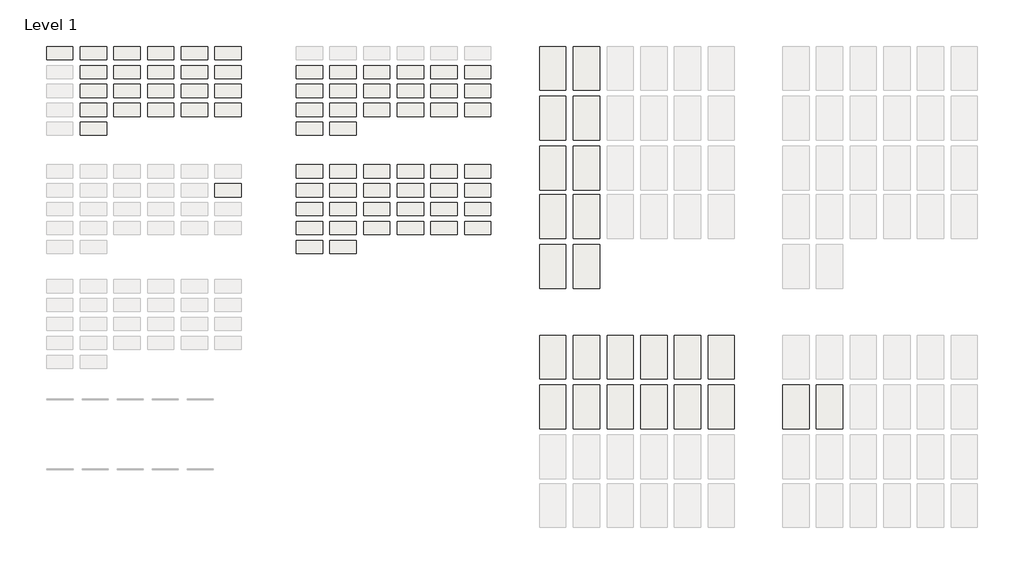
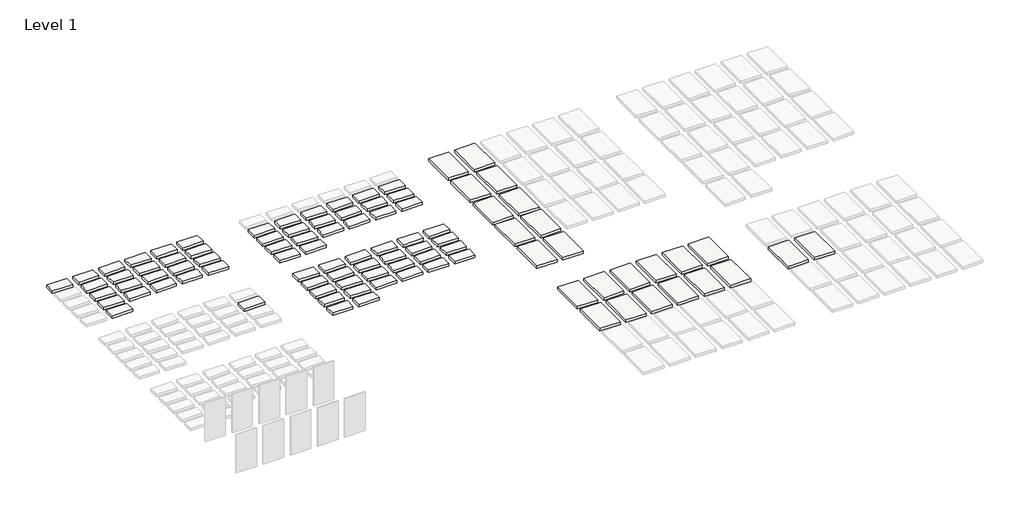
# One storey, part 2 of 3: 93 slabs.
"""IFC4 building model written with IfcOpenShell, lengths in millimetres."""

from ifc_helpers import new_model, si_unit, frame, origin, place, context, project, spatial, polyline, outline, extrude, element, save

model = new_model("IFC4")

# Units and contexts
model_context = context("Model", 3, world=origin())
ifc_project = project(units=[si_unit("LENGTHUNIT", "METRE", prefix="MILLI")], contexts=[model_context])

# Site, building, storey
site = spatial("IfcSite", under=ifc_project)
building = spatial("IfcBuilding", under=site)
storey = spatial("IfcBuildingStorey", under=building, Name="Level 1", Elevation=0.0)

# Slabs
placement = place(None, origin())
element("IfcSlab", 1, ObjectType="AEP Span Material Sample", at=placement, inside=storey, context=model_context, shape_type="SweptSolid", body=[
    extrude(outline(polyline([(-4333.8786121, 8076.7095388), (-4943.4786121, 8076.7095388), (-4943.4786121, 8381.5095388), (-4333.8786121, 8381.5095388), (-4333.8786121, 8076.7095388)])), frame((0.0, 0.0, -79.375), z_axis=(0.0, 0.0, 1.0), x_axis=(1.0, 0.0, 0.0)), (0.0, 0.0, 1.0), 79.375),
])
element("IfcSlab", 2, ObjectType="AEP Span Material Sample", at=placement, inside=storey, context=model_context, shape_type="SweptSolid", body=[
    extrude(outline(polyline([(-3552.8286121, 8076.7095388), (-4162.4286121, 8076.7095388), (-4162.4286121, 8381.5095388), (-3552.8286121, 8381.5095388), (-3552.8286121, 8076.7095388)])), frame((0.0, 0.0, -79.375), z_axis=(0.0, 0.0, 1.0), x_axis=(1.0, 0.0, 0.0)), (0.0, 0.0, 1.0), 79.375),
])
element("IfcSlab", 3, ObjectType="AEP Span Material Sample", at=placement, inside=storey, context=model_context, shape_type="SweptSolid", body=[
    extrude(outline(polyline([(-2771.7786121, 8076.7095388), (-3381.3786121, 8076.7095388), (-3381.3786121, 8381.5095388), (-2771.7786121, 8381.5095388), (-2771.7786121, 8076.7095388)])), frame((0.0, 0.0, -79.375), z_axis=(0.0, 0.0, 1.0), x_axis=(1.0, 0.0, 0.0)), (0.0, 0.0, 1.0), 79.375),
])
element("IfcSlab", 4, ObjectType="AEP Span Material Sample", at=placement, inside=storey, context=model_context, shape_type="SweptSolid", body=[
    extrude(outline(polyline([(-1990.7286121, 8076.7095388), (-2600.3286121, 8076.7095388), (-2600.3286121, 8381.5095388), (-1990.7286121, 8381.5095388), (-1990.7286121, 8076.7095388)])), frame((0.0, 0.0, -79.375), z_axis=(0.0, 0.0, 1.0), x_axis=(1.0, 0.0, 0.0)), (0.0, 0.0, 1.0), 79.375),
])
element("IfcSlab", 5, ObjectType="AEP Span Material Sample", at=placement, inside=storey, context=model_context, shape_type="SweptSolid", body=[
    extrude(outline(polyline([(-1209.6786121, 8076.7095388), (-1819.2786121, 8076.7095388), (-1819.2786121, 8381.5095388), (-1209.6786121, 8381.5095388), (-1209.6786121, 8076.7095388)])), frame((0.0, 0.0, -79.375), z_axis=(0.0, 0.0, 1.0), x_axis=(1.0, 0.0, 0.0)), (0.0, 0.0, 1.0), 79.375),
])
element("IfcSlab", 6, ObjectType="AEP Span Material Sample", at=placement, inside=storey, context=model_context, shape_type="SweptSolid", body=[
    extrude(outline(polyline([(-428.6286121, 8076.7095388), (-1038.2286121, 8076.7095388), (-1038.2286121, 8381.5095388), (-428.6286121, 8381.5095388), (-428.6286121, 8076.7095388)])), frame((0.0, 0.0, -79.375), z_axis=(0.0, 0.0, 1.0), x_axis=(1.0, 0.0, 0.0)), (0.0, 0.0, 1.0), 79.375),
])
element("IfcSlab", 7, ObjectType="AEP Span Material Sample", at=placement, inside=storey, context=model_context, shape_type="SweptSolid", body=[
    extrude(outline(polyline([(-3552.8286121, 7638.5595388), (-4162.4286121, 7638.5595388), (-4162.4286121, 7943.3595388), (-3552.8286121, 7943.3595388), (-3552.8286121, 7638.5595388)])), frame((0.0, 0.0, -79.375), z_axis=(0.0, 0.0, 1.0), x_axis=(1.0, 0.0, 0.0)), (0.0, 0.0, 1.0), 79.375),
])
element("IfcSlab", 8, ObjectType="AEP Span Material Sample", at=placement, inside=storey, context=model_context, shape_type="SweptSolid", body=[
    extrude(outline(polyline([(-2771.7786121, 7638.5595388), (-3381.3786121, 7638.5595388), (-3381.3786121, 7943.3595388), (-2771.7786121, 7943.3595388), (-2771.7786121, 7638.5595388)])), frame((0.0, 0.0, -79.375), z_axis=(0.0, 0.0, 1.0), x_axis=(1.0, 0.0, 0.0)), (0.0, 0.0, 1.0), 79.375),
])
element("IfcSlab", 9, ObjectType="AEP Span Material Sample", at=placement, inside=storey, context=model_context, shape_type="SweptSolid", body=[
    extrude(outline(polyline([(-1990.7286121, 7638.5595388), (-2600.3286121, 7638.5595388), (-2600.3286121, 7943.3595388), (-1990.7286121, 7943.3595388), (-1990.7286121, 7638.5595388)])), frame((0.0, 0.0, -79.375), z_axis=(0.0, 0.0, 1.0), x_axis=(1.0, 0.0, 0.0)), (0.0, 0.0, 1.0), 79.375),
])
element("IfcSlab", 10, ObjectType="AEP Span Material Sample", at=placement, inside=storey, context=model_context, shape_type="SweptSolid", body=[
    extrude(outline(polyline([(-1209.6786121, 7638.5595388), (-1819.2786121, 7638.5595388), (-1819.2786121, 7943.3595388), (-1209.6786121, 7943.3595388), (-1209.6786121, 7638.5595388)])), frame((0.0, 0.0, -79.375), z_axis=(0.0, 0.0, 1.0), x_axis=(1.0, 0.0, 0.0)), (0.0, 0.0, 1.0), 79.375),
])
element("IfcSlab", 11, ObjectType="AEP Span Material Sample", at=placement, inside=storey, context=model_context, shape_type="SweptSolid", body=[
    extrude(outline(polyline([(-428.6286121, 7638.5595388), (-1038.2286121, 7638.5595388), (-1038.2286121, 7943.3595388), (-428.6286121, 7943.3595388), (-428.6286121, 7638.5595388)])), frame((0.0, 0.0, -79.375), z_axis=(0.0, 0.0, 1.0), x_axis=(1.0, 0.0, 0.0)), (0.0, 0.0, 1.0), 79.375),
])
element("IfcSlab", 12, ObjectType="AEP Span Material Sample", at=placement, inside=storey, context=model_context, shape_type="SweptSolid", body=[
    extrude(outline(polyline([(-3552.8286121, 7200.4095388), (-4162.4286121, 7200.4095388), (-4162.4286121, 7505.2095388), (-3552.8286121, 7505.2095388), (-3552.8286121, 7200.4095388)])), frame((0.0, 0.0, -79.375), z_axis=(0.0, 0.0, 1.0), x_axis=(1.0, 0.0, 0.0)), (0.0, 0.0, 1.0), 79.375),
])
element("IfcSlab", 13, ObjectType="AEP Span Material Sample", at=placement, inside=storey, context=model_context, shape_type="SweptSolid", body=[
    extrude(outline(polyline([(-2771.7786121, 7200.4095388), (-3381.3786121, 7200.4095388), (-3381.3786121, 7505.2095388), (-2771.7786121, 7505.2095388), (-2771.7786121, 7200.4095388)])), frame((0.0, 0.0, -79.375), z_axis=(0.0, 0.0, 1.0), x_axis=(1.0, 0.0, 0.0)), (0.0, 0.0, 1.0), 79.375),
])
element("IfcSlab", 14, ObjectType="AEP Span Material Sample", at=placement, inside=storey, context=model_context, shape_type="SweptSolid", body=[
    extrude(outline(polyline([(-1990.7286121, 7200.4095388), (-2600.3286121, 7200.4095388), (-2600.3286121, 7505.2095388), (-1990.7286121, 7505.2095388), (-1990.7286121, 7200.4095388)])), frame((0.0, 0.0, -79.375), z_axis=(0.0, 0.0, 1.0), x_axis=(1.0, 0.0, 0.0)), (0.0, 0.0, 1.0), 79.375),
])
element("IfcSlab", 15, ObjectType="AEP Span Material Sample", at=placement, inside=storey, context=model_context, shape_type="SweptSolid", body=[
    extrude(outline(polyline([(-1209.6786121, 7200.4095388), (-1819.2786121, 7200.4095388), (-1819.2786121, 7505.2095388), (-1209.6786121, 7505.2095388), (-1209.6786121, 7200.4095388)])), frame((0.0, 0.0, -79.375), z_axis=(0.0, 0.0, 1.0), x_axis=(1.0, 0.0, 0.0)), (0.0, 0.0, 1.0), 79.375),
])
element("IfcSlab", 16, ObjectType="AEP Span Material Sample", at=placement, inside=storey, context=model_context, shape_type="SweptSolid", body=[
    extrude(outline(polyline([(-428.6286121, 7200.4095388), (-1038.2286121, 7200.4095388), (-1038.2286121, 7505.2095388), (-428.6286121, 7505.2095388), (-428.6286121, 7200.4095388)])), frame((0.0, 0.0, -79.375), z_axis=(0.0, 0.0, 1.0), x_axis=(1.0, 0.0, 0.0)), (0.0, 0.0, 1.0), 79.375),
])
element("IfcSlab", 17, ObjectType="AEP Span Material Sample", at=placement, inside=storey, context=model_context, shape_type="SweptSolid", body=[
    extrude(outline(polyline([(-3552.8286121, 6762.2595388), (-4162.4286121, 6762.2595388), (-4162.4286121, 7067.0595388), (-3552.8286121, 7067.0595388), (-3552.8286121, 6762.2595388)])), frame((0.0, 0.0, -79.375), z_axis=(0.0, 0.0, 1.0), x_axis=(1.0, 0.0, 0.0)), (0.0, 0.0, 1.0), 79.375),
])
element("IfcSlab", 18, ObjectType="AEP Span Material Sample", at=placement, inside=storey, context=model_context, shape_type="SweptSolid", body=[
    extrude(outline(polyline([(-2771.7786121, 6762.2595388), (-3381.3786121, 6762.2595388), (-3381.3786121, 7067.0595388), (-2771.7786121, 7067.0595388), (-2771.7786121, 6762.2595388)])), frame((0.0, 0.0, -79.375), z_axis=(0.0, 0.0, 1.0), x_axis=(1.0, 0.0, 0.0)), (0.0, 0.0, 1.0), 79.375),
])
element("IfcSlab", 19, ObjectType="AEP Span Material Sample", at=placement, inside=storey, context=model_context, shape_type="SweptSolid", body=[
    extrude(outline(polyline([(-1990.7286121, 6762.2595388), (-2600.3286121, 6762.2595388), (-2600.3286121, 7067.0595388), (-1990.7286121, 7067.0595388), (-1990.7286121, 6762.2595388)])), frame((0.0, 0.0, -79.375), z_axis=(0.0, 0.0, 1.0), x_axis=(1.0, 0.0, 0.0)), (0.0, 0.0, 1.0), 79.375),
])
element("IfcSlab", 20, ObjectType="AEP Span Material Sample", at=placement, inside=storey, context=model_context, shape_type="SweptSolid", body=[
    extrude(outline(polyline([(-1209.6786121, 6762.2595388), (-1819.2786121, 6762.2595388), (-1819.2786121, 7067.0595388), (-1209.6786121, 7067.0595388), (-1209.6786121, 6762.2595388)])), frame((0.0, 0.0, -79.375), z_axis=(0.0, 0.0, 1.0), x_axis=(1.0, 0.0, 0.0)), (0.0, 0.0, 1.0), 79.375),
])
element("IfcSlab", 21, ObjectType="AEP Span Material Sample", at=placement, inside=storey, context=model_context, shape_type="SweptSolid", body=[
    extrude(outline(polyline([(-428.6286121, 6762.2595388), (-1038.2286121, 6762.2595388), (-1038.2286121, 7067.0595388), (-428.6286121, 7067.0595388), (-428.6286121, 6762.2595388)])), frame((0.0, 0.0, -79.375), z_axis=(0.0, 0.0, 1.0), x_axis=(1.0, 0.0, 0.0)), (0.0, 0.0, 1.0), 79.375),
])
element("IfcSlab", 22, ObjectType="AEP Span Material Sample", at=placement, inside=storey, context=model_context, shape_type="SweptSolid", body=[
    extrude(outline(polyline([(-3552.8286121, 6324.1095388), (-4162.4286121, 6324.1095388), (-4162.4286121, 6628.9095388), (-3552.8286121, 6628.9095388), (-3552.8286121, 6324.1095388)])), frame((0.0, 0.0, -79.375), z_axis=(0.0, 0.0, 1.0), x_axis=(1.0, 0.0, 0.0)), (0.0, 0.0, 1.0), 79.375),
])
element("IfcSlab", 23, ObjectType="AEP Span Material Sample", at=placement, inside=storey, context=model_context, shape_type="SweptSolid", body=[
    extrude(outline(polyline([(7104.6651306, 7369.4013771), (6495.0651306, 7369.4013771), (6495.0651306, 8385.4013771), (7104.6651306, 8385.4013771), (7104.6651306, 7369.4013771)])), frame((0.0, 0.0, -79.375), z_axis=(0.0, 0.0, 1.0), x_axis=(1.0, 0.0, 0.0)), (0.0, 0.0, 1.0), 79.375),
])
element("IfcSlab", 24, ObjectType="AEP Span Material Sample", at=placement, inside=storey, context=model_context, shape_type="SweptSolid", body=[
    extrude(outline(polyline([(7885.7151306, 7369.4013771), (7276.1151306, 7369.4013771), (7276.1151306, 8385.4013771), (7885.7151306, 8385.4013771), (7885.7151306, 7369.4013771)])), frame((0.0, 0.0, -79.375), z_axis=(0.0, 0.0, 1.0), x_axis=(1.0, 0.0, 0.0)), (0.0, 0.0, 1.0), 79.375),
])
element("IfcSlab", 25, ObjectType="AEP Span Material Sample", at=placement, inside=storey, context=model_context, shape_type="SweptSolid", body=[
    extrude(outline(polyline([(7104.6651306, 6213.7013771), (6495.0651306, 6213.7013771), (6495.0651306, 7229.7013771), (7104.6651306, 7229.7013771), (7104.6651306, 6213.7013771)])), frame((0.0, 0.0, -79.375), z_axis=(0.0, 0.0, 1.0), x_axis=(1.0, 0.0, 0.0)), (0.0, 0.0, 1.0), 79.375),
])
element("IfcSlab", 26, ObjectType="AEP Span Material Sample", at=placement, inside=storey, context=model_context, shape_type="SweptSolid", body=[
    extrude(outline(polyline([(7885.7151306, 6213.7013771), (7276.1151306, 6213.7013771), (7276.1151306, 7229.7013771), (7885.7151306, 7229.7013771), (7885.7151306, 6213.7013771)])), frame((0.0, 0.0, -79.375), z_axis=(0.0, 0.0, 1.0), x_axis=(1.0, 0.0, 0.0)), (0.0, 0.0, 1.0), 79.375),
])
element("IfcSlab", 27, ObjectType="AEP Span Material Sample", at=placement, inside=storey, context=model_context, shape_type="SweptSolid", body=[
    extrude(outline(polyline([(7104.6651306, 5058.0013771), (6495.0651306, 5058.0013771), (6495.0651306, 6074.0013771), (7104.6651306, 6074.0013771), (7104.6651306, 5058.0013771)])), frame((0.0, 0.0, -79.375), z_axis=(0.0, 0.0, 1.0), x_axis=(1.0, 0.0, 0.0)), (0.0, 0.0, 1.0), 79.375),
])
element("IfcSlab", 28, ObjectType="AEP Span Material Sample", at=placement, inside=storey, context=model_context, shape_type="SweptSolid", body=[
    extrude(outline(polyline([(7885.7151306, 5058.0013771), (7276.1151306, 5058.0013771), (7276.1151306, 6074.0013771), (7885.7151306, 6074.0013771), (7885.7151306, 5058.0013771)])), frame((0.0, 0.0, -79.375), z_axis=(0.0, 0.0, 1.0), x_axis=(1.0, 0.0, 0.0)), (0.0, 0.0, 1.0), 79.375),
])
element("IfcSlab", 29, ObjectType="AEP Span Material Sample", at=placement, inside=storey, context=model_context, shape_type="SweptSolid", body=[
    extrude(outline(polyline([(7104.6651306, 3927.7013771), (6495.0651306, 3927.7013771), (6495.0651306, 4943.7013771), (7104.6651306, 4943.7013771), (7104.6651306, 3927.7013771)])), frame((0.0, 0.0, -79.375), z_axis=(0.0, 0.0, 1.0), x_axis=(1.0, 0.0, 0.0)), (0.0, 0.0, 1.0), 79.375),
])
element("IfcSlab", 30, ObjectType="AEP Span Material Sample", at=placement, inside=storey, context=model_context, shape_type="SweptSolid", body=[
    extrude(outline(polyline([(7885.7151306, 3927.7013771), (7276.1151306, 3927.7013771), (7276.1151306, 4943.7013771), (7885.7151306, 4943.7013771), (7885.7151306, 3927.7013771)])), frame((0.0, 0.0, -79.375), z_axis=(0.0, 0.0, 1.0), x_axis=(1.0, 0.0, 0.0)), (0.0, 0.0, 1.0), 79.375),
])
element("IfcSlab", 31, ObjectType="AEP Span Material Sample", at=placement, inside=storey, context=model_context, shape_type="SweptSolid", body=[
    extrude(outline(polyline([(7104.6651306, 2772.0013771), (6495.0651306, 2772.0013771), (6495.0651306, 3788.0013771), (7104.6651306, 3788.0013771), (7104.6651306, 2772.0013771)])), frame((0.0, 0.0, -79.375), z_axis=(0.0, 0.0, 1.0), x_axis=(1.0, 0.0, 0.0)), (0.0, 0.0, 1.0), 79.375),
])
element("IfcSlab", 32, ObjectType="AEP Span Material Sample", at=placement, inside=storey, context=model_context, shape_type="SweptSolid", body=[
    extrude(outline(polyline([(7885.7151306, 2772.0013771), (7276.1151306, 2772.0013771), (7276.1151306, 3788.0013771), (7885.7151306, 3788.0013771), (7885.7151306, 2772.0013771)])), frame((0.0, 0.0, -79.375), z_axis=(0.0, 0.0, 1.0), x_axis=(1.0, 0.0, 0.0)), (0.0, 0.0, 1.0), 79.375),
])
element("IfcSlab", 33, ObjectType="AEP Span Material Sample", at=placement, inside=storey, context=model_context, shape_type="SweptSolid", body=[
    extrude(outline(polyline([(1457.3213879, 7638.5595388), (847.7213879, 7638.5595388), (847.7213879, 7943.3595388), (1457.3213879, 7943.3595388), (1457.3213879, 7638.5595388)])), frame((0.0, 0.0, -79.375), z_axis=(0.0, 0.0, 1.0), x_axis=(1.0, 0.0, 0.0)), (0.0, 0.0, 1.0), 79.375),
])
element("IfcSlab", 34, ObjectType="AEP Span Material Sample", at=placement, inside=storey, context=model_context, shape_type="SweptSolid", body=[
    extrude(outline(polyline([(2238.3713879, 7638.5595388), (1628.7713879, 7638.5595388), (1628.7713879, 7943.3595388), (2238.3713879, 7943.3595388), (2238.3713879, 7638.5595388)])), frame((0.0, 0.0, -79.375), z_axis=(0.0, 0.0, 1.0), x_axis=(1.0, 0.0, 0.0)), (0.0, 0.0, 1.0), 79.375),
])
element("IfcSlab", 35, ObjectType="AEP Span Material Sample", at=placement, inside=storey, context=model_context, shape_type="SweptSolid", body=[
    extrude(outline(polyline([(3019.4213879, 7638.5595388), (2409.8213879, 7638.5595388), (2409.8213879, 7943.3595388), (3019.4213879, 7943.3595388), (3019.4213879, 7638.5595388)])), frame((0.0, 0.0, -79.375), z_axis=(0.0, 0.0, 1.0), x_axis=(1.0, 0.0, 0.0)), (0.0, 0.0, 1.0), 79.375),
])
element("IfcSlab", 36, ObjectType="AEP Span Material Sample", at=placement, inside=storey, context=model_context, shape_type="SweptSolid", body=[
    extrude(outline(polyline([(3800.4713879, 7638.5595388), (3190.8713879, 7638.5595388), (3190.8713879, 7943.3595388), (3800.4713879, 7943.3595388), (3800.4713879, 7638.5595388)])), frame((0.0, 0.0, -79.375), z_axis=(0.0, 0.0, 1.0), x_axis=(1.0, 0.0, 0.0)), (0.0, 0.0, 1.0), 79.375),
])
element("IfcSlab", 37, ObjectType="AEP Span Material Sample", at=placement, inside=storey, context=model_context, shape_type="SweptSolid", body=[
    extrude(outline(polyline([(4581.5213879, 7638.5595388), (3971.9213879, 7638.5595388), (3971.9213879, 7943.3595388), (4581.5213879, 7943.3595388), (4581.5213879, 7638.5595388)])), frame((0.0, 0.0, -79.375), z_axis=(0.0, 0.0, 1.0), x_axis=(1.0, 0.0, 0.0)), (0.0, 0.0, 1.0), 79.375),
])
element("IfcSlab", 38, ObjectType="AEP Span Material Sample", at=placement, inside=storey, context=model_context, shape_type="SweptSolid", body=[
    extrude(outline(polyline([(5362.5713879, 7638.5595388), (4752.9713879, 7638.5595388), (4752.9713879, 7943.3595388), (5362.5713879, 7943.3595388), (5362.5713879, 7638.5595388)])), frame((0.0, 0.0, -79.375), z_axis=(0.0, 0.0, 1.0), x_axis=(1.0, 0.0, 0.0)), (0.0, 0.0, 1.0), 79.375),
])
element("IfcSlab", 39, ObjectType="AEP Span Material Sample", at=placement, inside=storey, context=model_context, shape_type="SweptSolid", body=[
    extrude(outline(polyline([(1457.3213879, 7200.4095388), (847.7213879, 7200.4095388), (847.7213879, 7505.2095388), (1457.3213879, 7505.2095388), (1457.3213879, 7200.4095388)])), frame((0.0, 0.0, -79.375), z_axis=(0.0, 0.0, 1.0), x_axis=(1.0, 0.0, 0.0)), (0.0, 0.0, 1.0), 79.375),
])
element("IfcSlab", 40, ObjectType="AEP Span Material Sample", at=placement, inside=storey, context=model_context, shape_type="SweptSolid", body=[
    extrude(outline(polyline([(2238.3713879, 7200.4095388), (1628.7713879, 7200.4095388), (1628.7713879, 7505.2095388), (2238.3713879, 7505.2095388), (2238.3713879, 7200.4095388)])), frame((0.0, 0.0, -79.375), z_axis=(0.0, 0.0, 1.0), x_axis=(1.0, 0.0, 0.0)), (0.0, 0.0, 1.0), 79.375),
])
element("IfcSlab", 41, ObjectType="AEP Span Material Sample", at=placement, inside=storey, context=model_context, shape_type="SweptSolid", body=[
    extrude(outline(polyline([(3019.4213879, 7200.4095388), (2409.8213879, 7200.4095388), (2409.8213879, 7505.2095388), (3019.4213879, 7505.2095388), (3019.4213879, 7200.4095388)])), frame((0.0, 0.0, -79.375), z_axis=(0.0, 0.0, 1.0), x_axis=(1.0, 0.0, 0.0)), (0.0, 0.0, 1.0), 79.375),
])
element("IfcSlab", 42, ObjectType="AEP Span Material Sample", at=placement, inside=storey, context=model_context, shape_type="SweptSolid", body=[
    extrude(outline(polyline([(3800.4713879, 7200.4095388), (3190.8713879, 7200.4095388), (3190.8713879, 7505.2095388), (3800.4713879, 7505.2095388), (3800.4713879, 7200.4095388)])), frame((0.0, 0.0, -79.375), z_axis=(0.0, 0.0, 1.0), x_axis=(1.0, 0.0, 0.0)), (0.0, 0.0, 1.0), 79.375),
])
element("IfcSlab", 43, ObjectType="AEP Span Material Sample", at=placement, inside=storey, context=model_context, shape_type="SweptSolid", body=[
    extrude(outline(polyline([(4581.5213879, 7200.4095388), (3971.9213879, 7200.4095388), (3971.9213879, 7505.2095388), (4581.5213879, 7505.2095388), (4581.5213879, 7200.4095388)])), frame((0.0, 0.0, -79.375), z_axis=(0.0, 0.0, 1.0), x_axis=(1.0, 0.0, 0.0)), (0.0, 0.0, 1.0), 79.375),
])
element("IfcSlab", 44, ObjectType="AEP Span Material Sample", at=placement, inside=storey, context=model_context, shape_type="SweptSolid", body=[
    extrude(outline(polyline([(5362.5713879, 7200.4095388), (4752.9713879, 7200.4095388), (4752.9713879, 7505.2095388), (5362.5713879, 7505.2095388), (5362.5713879, 7200.4095388)])), frame((0.0, 0.0, -79.375), z_axis=(0.0, 0.0, 1.0), x_axis=(1.0, 0.0, 0.0)), (0.0, 0.0, 1.0), 79.375),
])
element("IfcSlab", 45, ObjectType="AEP Span Material Sample", at=placement, inside=storey, context=model_context, shape_type="SweptSolid", body=[
    extrude(outline(polyline([(1457.3213879, 6762.2595388), (847.7213879, 6762.2595388), (847.7213879, 7067.0595388), (1457.3213879, 7067.0595388), (1457.3213879, 6762.2595388)])), frame((0.0, 0.0, -79.375), z_axis=(0.0, 0.0, 1.0), x_axis=(1.0, 0.0, 0.0)), (0.0, 0.0, 1.0), 79.375),
])
element("IfcSlab", 46, ObjectType="AEP Span Material Sample", at=placement, inside=storey, context=model_context, shape_type="SweptSolid", body=[
    extrude(outline(polyline([(2238.3713879, 6762.2595388), (1628.7713879, 6762.2595388), (1628.7713879, 7067.0595388), (2238.3713879, 7067.0595388), (2238.3713879, 6762.2595388)])), frame((0.0, 0.0, -79.375), z_axis=(0.0, 0.0, 1.0), x_axis=(1.0, 0.0, 0.0)), (0.0, 0.0, 1.0), 79.375),
])
element("IfcSlab", 47, ObjectType="AEP Span Material Sample", at=placement, inside=storey, context=model_context, shape_type="SweptSolid", body=[
    extrude(outline(polyline([(3019.4213879, 6762.2595388), (2409.8213879, 6762.2595388), (2409.8213879, 7067.0595388), (3019.4213879, 7067.0595388), (3019.4213879, 6762.2595388)])), frame((0.0, 0.0, -79.375), z_axis=(0.0, 0.0, 1.0), x_axis=(1.0, 0.0, 0.0)), (0.0, 0.0, 1.0), 79.375),
])
element("IfcSlab", 48, ObjectType="AEP Span Material Sample", at=placement, inside=storey, context=model_context, shape_type="SweptSolid", body=[
    extrude(outline(polyline([(3800.4713879, 6762.2595388), (3190.8713879, 6762.2595388), (3190.8713879, 7067.0595388), (3800.4713879, 7067.0595388), (3800.4713879, 6762.2595388)])), frame((0.0, 0.0, -79.375), z_axis=(0.0, 0.0, 1.0), x_axis=(1.0, 0.0, 0.0)), (0.0, 0.0, 1.0), 79.375),
])
element("IfcSlab", 49, ObjectType="AEP Span Material Sample", at=placement, inside=storey, context=model_context, shape_type="SweptSolid", body=[
    extrude(outline(polyline([(4581.5213879, 6762.2595388), (3971.9213879, 6762.2595388), (3971.9213879, 7067.0595388), (4581.5213879, 7067.0595388), (4581.5213879, 6762.2595388)])), frame((0.0, 0.0, -79.375), z_axis=(0.0, 0.0, 1.0), x_axis=(1.0, 0.0, 0.0)), (0.0, 0.0, 1.0), 79.375),
])
element("IfcSlab", 50, ObjectType="AEP Span Material Sample", at=placement, inside=storey, context=model_context, shape_type="SweptSolid", body=[
    extrude(outline(polyline([(5362.5713879, 6762.2595388), (4752.9713879, 6762.2595388), (4752.9713879, 7067.0595388), (5362.5713879, 7067.0595388), (5362.5713879, 6762.2595388)])), frame((0.0, 0.0, -79.375), z_axis=(0.0, 0.0, 1.0), x_axis=(1.0, 0.0, 0.0)), (0.0, 0.0, 1.0), 79.375),
])
element("IfcSlab", 51, ObjectType="AEP Span Material Sample", at=placement, inside=storey, context=model_context, shape_type="SweptSolid", body=[
    extrude(outline(polyline([(1457.3213879, 6324.1095388), (847.7213879, 6324.1095388), (847.7213879, 6628.9095388), (1457.3213879, 6628.9095388), (1457.3213879, 6324.1095388)])), frame((0.0, 0.0, -79.375), z_axis=(0.0, 0.0, 1.0), x_axis=(1.0, 0.0, 0.0)), (0.0, 0.0, 1.0), 79.375),
])
element("IfcSlab", 52, ObjectType="AEP Span Material Sample", at=placement, inside=storey, context=model_context, shape_type="SweptSolid", body=[
    extrude(outline(polyline([(2238.3713879, 6324.1095388), (1628.7713879, 6324.1095388), (1628.7713879, 6628.9095388), (2238.3713879, 6628.9095388), (2238.3713879, 6324.1095388)])), frame((0.0, 0.0, -79.375), z_axis=(0.0, 0.0, 1.0), x_axis=(1.0, 0.0, 0.0)), (0.0, 0.0, 1.0), 79.375),
])
element("IfcSlab", 53, ObjectType="AEP Span Material Sample", at=placement, inside=storey, context=model_context, shape_type="SweptSolid", body=[
    extrude(outline(polyline([(-428.6286121, 4895.3595388), (-1038.2286121, 4895.3595388), (-1038.2286121, 5200.1595388), (-428.6286121, 5200.1595388), (-428.6286121, 4895.3595388)])), frame((0.0, 0.0, -79.375), z_axis=(0.0, 0.0, 1.0), x_axis=(1.0, 0.0, 0.0)), (0.0, 0.0, 1.0), 79.375),
])
element("IfcSlab", 54, ObjectType="AEP Span Material Sample", at=placement, inside=storey, context=model_context, shape_type="SweptSolid", body=[
    extrude(outline(polyline([(1457.3213879, 5333.5095388), (847.7213879, 5333.5095388), (847.7213879, 5638.3095388), (1457.3213879, 5638.3095388), (1457.3213879, 5333.5095388)])), frame((0.0, 0.0, -79.375), z_axis=(0.0, 0.0, 1.0), x_axis=(1.0, 0.0, 0.0)), (0.0, 0.0, 1.0), 79.375),
])
element("IfcSlab", 55, ObjectType="AEP Span Material Sample", at=placement, inside=storey, context=model_context, shape_type="SweptSolid", body=[
    extrude(outline(polyline([(2238.3713879, 5333.5095388), (1628.7713879, 5333.5095388), (1628.7713879, 5638.3095388), (2238.3713879, 5638.3095388), (2238.3713879, 5333.5095388)])), frame((0.0, 0.0, -79.375), z_axis=(0.0, 0.0, 1.0), x_axis=(1.0, 0.0, 0.0)), (0.0, 0.0, 1.0), 79.375),
])
element("IfcSlab", 56, ObjectType="AEP Span Material Sample", at=placement, inside=storey, context=model_context, shape_type="SweptSolid", body=[
    extrude(outline(polyline([(3019.4213879, 5333.5095388), (2409.8213879, 5333.5095388), (2409.8213879, 5638.3095388), (3019.4213879, 5638.3095388), (3019.4213879, 5333.5095388)])), frame((0.0, 0.0, -79.375), z_axis=(0.0, 0.0, 1.0), x_axis=(1.0, 0.0, 0.0)), (0.0, 0.0, 1.0), 79.375),
])
element("IfcSlab", 57, ObjectType="AEP Span Material Sample", at=placement, inside=storey, context=model_context, shape_type="SweptSolid", body=[
    extrude(outline(polyline([(3800.4713879, 5333.5095388), (3190.8713879, 5333.5095388), (3190.8713879, 5638.3095388), (3800.4713879, 5638.3095388), (3800.4713879, 5333.5095388)])), frame((0.0, 0.0, -79.375), z_axis=(0.0, 0.0, 1.0), x_axis=(1.0, 0.0, 0.0)), (0.0, 0.0, 1.0), 79.375),
])
element("IfcSlab", 58, ObjectType="AEP Span Material Sample", at=placement, inside=storey, context=model_context, shape_type="SweptSolid", body=[
    extrude(outline(polyline([(4581.5213879, 5333.5095388), (3971.9213879, 5333.5095388), (3971.9213879, 5638.3095388), (4581.5213879, 5638.3095388), (4581.5213879, 5333.5095388)])), frame((0.0, 0.0, -79.375), z_axis=(0.0, 0.0, 1.0), x_axis=(1.0, 0.0, 0.0)), (0.0, 0.0, 1.0), 79.375),
])
element("IfcSlab", 59, ObjectType="AEP Span Material Sample", at=placement, inside=storey, context=model_context, shape_type="SweptSolid", body=[
    extrude(outline(polyline([(5362.5713879, 5333.5095388), (4752.9713879, 5333.5095388), (4752.9713879, 5638.3095388), (5362.5713879, 5638.3095388), (5362.5713879, 5333.5095388)])), frame((0.0, 0.0, -79.375), z_axis=(0.0, 0.0, 1.0), x_axis=(1.0, 0.0, 0.0)), (0.0, 0.0, 1.0), 79.375),
])
element("IfcSlab", 60, ObjectType="AEP Span Material Sample", at=placement, inside=storey, context=model_context, shape_type="SweptSolid", body=[
    extrude(outline(polyline([(1457.3213879, 4895.3595388), (847.7213879, 4895.3595388), (847.7213879, 5200.1595388), (1457.3213879, 5200.1595388), (1457.3213879, 4895.3595388)])), frame((0.0, 0.0, -79.375), z_axis=(0.0, 0.0, 1.0), x_axis=(1.0, 0.0, 0.0)), (0.0, 0.0, 1.0), 79.375),
])
element("IfcSlab", 61, ObjectType="AEP Span Material Sample", at=placement, inside=storey, context=model_context, shape_type="SweptSolid", body=[
    extrude(outline(polyline([(2238.3713879, 4895.3595388), (1628.7713879, 4895.3595388), (1628.7713879, 5200.1595388), (2238.3713879, 5200.1595388), (2238.3713879, 4895.3595388)])), frame((0.0, 0.0, -79.375), z_axis=(0.0, 0.0, 1.0), x_axis=(1.0, 0.0, 0.0)), (0.0, 0.0, 1.0), 79.375),
])
element("IfcSlab", 62, ObjectType="AEP Span Material Sample", at=placement, inside=storey, context=model_context, shape_type="SweptSolid", body=[
    extrude(outline(polyline([(3019.4213879, 4895.3595388), (2409.8213879, 4895.3595388), (2409.8213879, 5200.1595388), (3019.4213879, 5200.1595388), (3019.4213879, 4895.3595388)])), frame((0.0, 0.0, -79.375), z_axis=(0.0, 0.0, 1.0), x_axis=(1.0, 0.0, 0.0)), (0.0, 0.0, 1.0), 79.375),
])
element("IfcSlab", 63, ObjectType="AEP Span Material Sample", at=placement, inside=storey, context=model_context, shape_type="SweptSolid", body=[
    extrude(outline(polyline([(3800.4713879, 4895.3595388), (3190.8713879, 4895.3595388), (3190.8713879, 5200.1595388), (3800.4713879, 5200.1595388), (3800.4713879, 4895.3595388)])), frame((0.0, 0.0, -79.375), z_axis=(0.0, 0.0, 1.0), x_axis=(1.0, 0.0, 0.0)), (0.0, 0.0, 1.0), 79.375),
])
element("IfcSlab", 64, ObjectType="AEP Span Material Sample", at=placement, inside=storey, context=model_context, shape_type="SweptSolid", body=[
    extrude(outline(polyline([(4581.5213879, 4895.3595388), (3971.9213879, 4895.3595388), (3971.9213879, 5200.1595388), (4581.5213879, 5200.1595388), (4581.5213879, 4895.3595388)])), frame((0.0, 0.0, -79.375), z_axis=(0.0, 0.0, 1.0), x_axis=(1.0, 0.0, 0.0)), (0.0, 0.0, 1.0), 79.375),
])
element("IfcSlab", 65, ObjectType="AEP Span Material Sample", at=placement, inside=storey, context=model_context, shape_type="SweptSolid", body=[
    extrude(outline(polyline([(5362.5713879, 4895.3595388), (4752.9713879, 4895.3595388), (4752.9713879, 5200.1595388), (5362.5713879, 5200.1595388), (5362.5713879, 4895.3595388)])), frame((0.0, 0.0, -79.375), z_axis=(0.0, 0.0, 1.0), x_axis=(1.0, 0.0, 0.0)), (0.0, 0.0, 1.0), 79.375),
])
element("IfcSlab", 66, ObjectType="AEP Span Material Sample", at=placement, inside=storey, context=model_context, shape_type="SweptSolid", body=[
    extrude(outline(polyline([(1457.3213879, 4457.2095388), (847.7213879, 4457.2095388), (847.7213879, 4762.0095388), (1457.3213879, 4762.0095388), (1457.3213879, 4457.2095388)])), frame((0.0, 0.0, -79.375), z_axis=(0.0, 0.0, 1.0), x_axis=(1.0, 0.0, 0.0)), (0.0, 0.0, 1.0), 79.375),
])
element("IfcSlab", 67, ObjectType="AEP Span Material Sample", at=placement, inside=storey, context=model_context, shape_type="SweptSolid", body=[
    extrude(outline(polyline([(2238.3713879, 4457.2095388), (1628.7713879, 4457.2095388), (1628.7713879, 4762.0095388), (2238.3713879, 4762.0095388), (2238.3713879, 4457.2095388)])), frame((0.0, 0.0, -79.375), z_axis=(0.0, 0.0, 1.0), x_axis=(1.0, 0.0, 0.0)), (0.0, 0.0, 1.0), 79.375),
])
element("IfcSlab", 68, ObjectType="AEP Span Material Sample", at=placement, inside=storey, context=model_context, shape_type="SweptSolid", body=[
    extrude(outline(polyline([(3019.4213879, 4457.2095388), (2409.8213879, 4457.2095388), (2409.8213879, 4762.0095388), (3019.4213879, 4762.0095388), (3019.4213879, 4457.2095388)])), frame((0.0, 0.0, -79.375), z_axis=(0.0, 0.0, 1.0), x_axis=(1.0, 0.0, 0.0)), (0.0, 0.0, 1.0), 79.375),
])
element("IfcSlab", 69, ObjectType="AEP Span Material Sample", at=placement, inside=storey, context=model_context, shape_type="SweptSolid", body=[
    extrude(outline(polyline([(3800.4713879, 4457.2095388), (3190.8713879, 4457.2095388), (3190.8713879, 4762.0095388), (3800.4713879, 4762.0095388), (3800.4713879, 4457.2095388)])), frame((0.0, 0.0, -79.375), z_axis=(0.0, 0.0, 1.0), x_axis=(1.0, 0.0, 0.0)), (0.0, 0.0, 1.0), 79.375),
])
element("IfcSlab", 70, ObjectType="AEP Span Material Sample", at=placement, inside=storey, context=model_context, shape_type="SweptSolid", body=[
    extrude(outline(polyline([(4581.5213879, 4457.2095388), (3971.9213879, 4457.2095388), (3971.9213879, 4762.0095388), (4581.5213879, 4762.0095388), (4581.5213879, 4457.2095388)])), frame((0.0, 0.0, -79.375), z_axis=(0.0, 0.0, 1.0), x_axis=(1.0, 0.0, 0.0)), (0.0, 0.0, 1.0), 79.375),
])
element("IfcSlab", 71, ObjectType="AEP Span Material Sample", at=placement, inside=storey, context=model_context, shape_type="SweptSolid", body=[
    extrude(outline(polyline([(5362.5713879, 4457.2095388), (4752.9713879, 4457.2095388), (4752.9713879, 4762.0095388), (5362.5713879, 4762.0095388), (5362.5713879, 4457.2095388)])), frame((0.0, 0.0, -79.375), z_axis=(0.0, 0.0, 1.0), x_axis=(1.0, 0.0, 0.0)), (0.0, 0.0, 1.0), 79.375),
])
element("IfcSlab", 72, ObjectType="AEP Span Material Sample", at=placement, inside=storey, context=model_context, shape_type="SweptSolid", body=[
    extrude(outline(polyline([(1457.3213879, 4019.0595388), (847.7213879, 4019.0595388), (847.7213879, 4323.8595388), (1457.3213879, 4323.8595388), (1457.3213879, 4019.0595388)])), frame((0.0, 0.0, -79.375), z_axis=(0.0, 0.0, 1.0), x_axis=(1.0, 0.0, 0.0)), (0.0, 0.0, 1.0), 79.375),
])
element("IfcSlab", 73, ObjectType="AEP Span Material Sample", at=placement, inside=storey, context=model_context, shape_type="SweptSolid", body=[
    extrude(outline(polyline([(2238.3713879, 4019.0595388), (1628.7713879, 4019.0595388), (1628.7713879, 4323.8595388), (2238.3713879, 4323.8595388), (2238.3713879, 4019.0595388)])), frame((0.0, 0.0, -79.375), z_axis=(0.0, 0.0, 1.0), x_axis=(1.0, 0.0, 0.0)), (0.0, 0.0, 1.0), 79.375),
])
element("IfcSlab", 74, ObjectType="AEP Span Material Sample", at=placement, inside=storey, context=model_context, shape_type="SweptSolid", body=[
    extrude(outline(polyline([(3019.4213879, 4019.0595388), (2409.8213879, 4019.0595388), (2409.8213879, 4323.8595388), (3019.4213879, 4323.8595388), (3019.4213879, 4019.0595388)])), frame((0.0, 0.0, -79.375), z_axis=(0.0, 0.0, 1.0), x_axis=(1.0, 0.0, 0.0)), (0.0, 0.0, 1.0), 79.375),
])
element("IfcSlab", 75, ObjectType="AEP Span Material Sample", at=placement, inside=storey, context=model_context, shape_type="SweptSolid", body=[
    extrude(outline(polyline([(3800.4713879, 4019.0595388), (3190.8713879, 4019.0595388), (3190.8713879, 4323.8595388), (3800.4713879, 4323.8595388), (3800.4713879, 4019.0595388)])), frame((0.0, 0.0, -79.375), z_axis=(0.0, 0.0, 1.0), x_axis=(1.0, 0.0, 0.0)), (0.0, 0.0, 1.0), 79.375),
])
element("IfcSlab", 76, ObjectType="AEP Span Material Sample", at=placement, inside=storey, context=model_context, shape_type="SweptSolid", body=[
    extrude(outline(polyline([(4581.5213879, 4019.0595388), (3971.9213879, 4019.0595388), (3971.9213879, 4323.8595388), (4581.5213879, 4323.8595388), (4581.5213879, 4019.0595388)])), frame((0.0, 0.0, -79.375), z_axis=(0.0, 0.0, 1.0), x_axis=(1.0, 0.0, 0.0)), (0.0, 0.0, 1.0), 79.375),
])
element("IfcSlab", 77, ObjectType="AEP Span Material Sample", at=placement, inside=storey, context=model_context, shape_type="SweptSolid", body=[
    extrude(outline(polyline([(5362.5713879, 4019.0595388), (4752.9713879, 4019.0595388), (4752.9713879, 4323.8595388), (5362.5713879, 4323.8595388), (5362.5713879, 4019.0595388)])), frame((0.0, 0.0, -79.375), z_axis=(0.0, 0.0, 1.0), x_axis=(1.0, 0.0, 0.0)), (0.0, 0.0, 1.0), 79.375),
])
element("IfcSlab", 78, ObjectType="AEP Span Material Sample", at=placement, inside=storey, context=model_context, shape_type="SweptSolid", body=[
    extrude(outline(polyline([(1457.3213879, 3580.9095388), (847.7213879, 3580.9095388), (847.7213879, 3885.7095388), (1457.3213879, 3885.7095388), (1457.3213879, 3580.9095388)])), frame((0.0, 0.0, -79.375), z_axis=(0.0, 0.0, 1.0), x_axis=(1.0, 0.0, 0.0)), (0.0, 0.0, 1.0), 79.375),
])
element("IfcSlab", 79, ObjectType="AEP Span Material Sample", at=placement, inside=storey, context=model_context, shape_type="SweptSolid", body=[
    extrude(outline(polyline([(2238.3713879, 3580.9095388), (1628.7713879, 3580.9095388), (1628.7713879, 3885.7095388), (2238.3713879, 3885.7095388), (2238.3713879, 3580.9095388)])), frame((0.0, 0.0, -79.375), z_axis=(0.0, 0.0, 1.0), x_axis=(1.0, 0.0, 0.0)), (0.0, 0.0, 1.0), 79.375),
])
element("IfcSlab", 80, ObjectType="AEP Span Material Sample", at=placement, inside=storey, context=model_context, shape_type="SweptSolid", body=[
    extrude(outline(polyline([(7104.6651306, 663.8013771), (6495.0651306, 663.8013771), (6495.0651306, 1679.8013771), (7104.6651306, 1679.8013771), (7104.6651306, 663.8013771)])), frame((0.0, 0.0, -79.375), z_axis=(0.0, 0.0, 1.0), x_axis=(1.0, 0.0, 0.0)), (0.0, 0.0, 1.0), 79.375),
])
element("IfcSlab", 81, ObjectType="AEP Span Material Sample", at=placement, inside=storey, context=model_context, shape_type="SweptSolid", body=[
    extrude(outline(polyline([(7885.7151306, 663.8013771), (7276.1151306, 663.8013771), (7276.1151306, 1679.8013771), (7885.7151306, 1679.8013771), (7885.7151306, 663.8013771)])), frame((0.0, 0.0, -79.375), z_axis=(0.0, 0.0, 1.0), x_axis=(1.0, 0.0, 0.0)), (0.0, 0.0, 1.0), 79.375),
])
element("IfcSlab", 82, ObjectType="AEP Span Material Sample", at=placement, inside=storey, context=model_context, shape_type="SweptSolid", body=[
    extrude(outline(polyline([(8666.7651306, 663.8013771), (8057.1651306, 663.8013771), (8057.1651306, 1679.8013771), (8666.7651306, 1679.8013771), (8666.7651306, 663.8013771)])), frame((0.0, 0.0, -79.375), z_axis=(0.0, 0.0, 1.0), x_axis=(1.0, 0.0, 0.0)), (0.0, 0.0, 1.0), 79.375),
])
element("IfcSlab", 83, ObjectType="AEP Span Material Sample", at=placement, inside=storey, context=model_context, shape_type="SweptSolid", body=[
    extrude(outline(polyline([(9447.8151306, 663.8013771), (8838.2151306, 663.8013771), (8838.2151306, 1679.8013771), (9447.8151306, 1679.8013771), (9447.8151306, 663.8013771)])), frame((0.0, 0.0, -79.375), z_axis=(0.0, 0.0, 1.0), x_axis=(1.0, 0.0, 0.0)), (0.0, 0.0, 1.0), 79.375),
])
element("IfcSlab", 84, ObjectType="AEP Span Material Sample", at=placement, inside=storey, context=model_context, shape_type="SweptSolid", body=[
    extrude(outline(polyline([(10228.8651306, 663.8013771), (9619.2651306, 663.8013771), (9619.2651306, 1679.8013771), (10228.8651306, 1679.8013771), (10228.8651306, 663.8013771)])), frame((0.0, 0.0, -79.375), z_axis=(0.0, 0.0, 1.0), x_axis=(1.0, 0.0, 0.0)), (0.0, 0.0, 1.0), 79.375),
])
element("IfcSlab", 85, ObjectType="AEP Span Material Sample", at=placement, inside=storey, context=model_context, shape_type="SweptSolid", body=[
    extrude(outline(polyline([(11009.9151306, 663.8013771), (10400.3151306, 663.8013771), (10400.3151306, 1679.8013771), (11009.9151306, 1679.8013771), (11009.9151306, 663.8013771)])), frame((0.0, 0.0, -79.375), z_axis=(0.0, 0.0, 1.0), x_axis=(1.0, 0.0, 0.0)), (0.0, 0.0, 1.0), 79.375),
])
element("IfcSlab", 86, ObjectType="AEP Span Material Sample", at=placement, inside=storey, context=model_context, shape_type="SweptSolid", body=[
    extrude(outline(polyline([(7104.6651306, -491.8986229), (6495.0651306, -491.8986229), (6495.0651306, 524.1013771), (7104.6651306, 524.1013771), (7104.6651306, -491.8986229)])), frame((0.0, 0.0, -79.375), z_axis=(0.0, 0.0, 1.0), x_axis=(1.0, 0.0, 0.0)), (0.0, 0.0, 1.0), 79.375),
])
element("IfcSlab", 87, ObjectType="AEP Span Material Sample", at=placement, inside=storey, context=model_context, shape_type="SweptSolid", body=[
    extrude(outline(polyline([(7885.7151306, -491.8986229), (7276.1151306, -491.8986229), (7276.1151306, 524.1013771), (7885.7151306, 524.1013771), (7885.7151306, -491.8986229)])), frame((0.0, 0.0, -79.375), z_axis=(0.0, 0.0, 1.0), x_axis=(1.0, 0.0, 0.0)), (0.0, 0.0, 1.0), 79.375),
])
element("IfcSlab", 88, ObjectType="AEP Span Material Sample", at=placement, inside=storey, context=model_context, shape_type="SweptSolid", body=[
    extrude(outline(polyline([(8666.7651306, -491.8986229), (8057.1651306, -491.8986229), (8057.1651306, 524.1013771), (8666.7651306, 524.1013771), (8666.7651306, -491.8986229)])), frame((0.0, 0.0, -79.375), z_axis=(0.0, 0.0, 1.0), x_axis=(1.0, 0.0, 0.0)), (0.0, 0.0, 1.0), 79.375),
])
element("IfcSlab", 89, ObjectType="AEP Span Material Sample", at=placement, inside=storey, context=model_context, shape_type="SweptSolid", body=[
    extrude(outline(polyline([(9447.8151306, -491.8986229), (8838.2151306, -491.8986229), (8838.2151306, 524.1013771), (9447.8151306, 524.1013771), (9447.8151306, -491.8986229)])), frame((0.0, 0.0, -79.375), z_axis=(0.0, 0.0, 1.0), x_axis=(1.0, 0.0, 0.0)), (0.0, 0.0, 1.0), 79.375),
])
element("IfcSlab", 90, ObjectType="AEP Span Material Sample", at=placement, inside=storey, context=model_context, shape_type="SweptSolid", body=[
    extrude(outline(polyline([(10228.8651306, -491.8986229), (9619.2651306, -491.8986229), (9619.2651306, 524.1013771), (10228.8651306, 524.1013771), (10228.8651306, -491.8986229)])), frame((0.0, 0.0, -79.375), z_axis=(0.0, 0.0, 1.0), x_axis=(1.0, 0.0, 0.0)), (0.0, 0.0, 1.0), 79.375),
])
element("IfcSlab", 91, ObjectType="AEP Span Material Sample", at=placement, inside=storey, context=model_context, shape_type="SweptSolid", body=[
    extrude(outline(polyline([(11009.9151306, -491.8986229), (10400.3151306, -491.8986229), (10400.3151306, 524.1013771), (11009.9151306, 524.1013771), (11009.9151306, -491.8986229)])), frame((0.0, 0.0, -79.375), z_axis=(0.0, 0.0, 1.0), x_axis=(1.0, 0.0, 0.0)), (0.0, 0.0, 1.0), 79.375),
])
element("IfcSlab", 92, ObjectType="AEP Span Material Sample", at=placement, inside=storey, context=model_context, shape_type="SweptSolid", body=[
    extrude(outline(polyline([(12743.4651306, -491.8986229), (12133.8651306, -491.8986229), (12133.8651306, 524.1013771), (12743.4651306, 524.1013771), (12743.4651306, -491.8986229)])), frame((0.0, 0.0, -79.375), z_axis=(0.0, 0.0, 1.0), x_axis=(1.0, 0.0, 0.0)), (0.0, 0.0, 1.0), 79.375),
])
element("IfcSlab", 93, ObjectType="AEP Span Material Sample", at=placement, inside=storey, context=model_context, shape_type="SweptSolid", body=[
    extrude(outline(polyline([(13524.5151306, -491.8986229), (12914.9151306, -491.8986229), (12914.9151306, 524.1013771), (13524.5151306, 524.1013771), (13524.5151306, -491.8986229)])), frame((0.0, 0.0, -79.375), z_axis=(0.0, 0.0, 1.0), x_axis=(1.0, 0.0, 0.0)), (0.0, 0.0, 1.0), 79.375),
])

save(model, "model.ifc")
